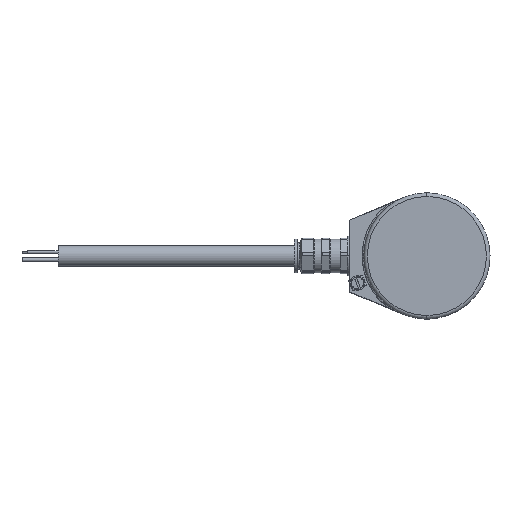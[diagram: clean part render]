
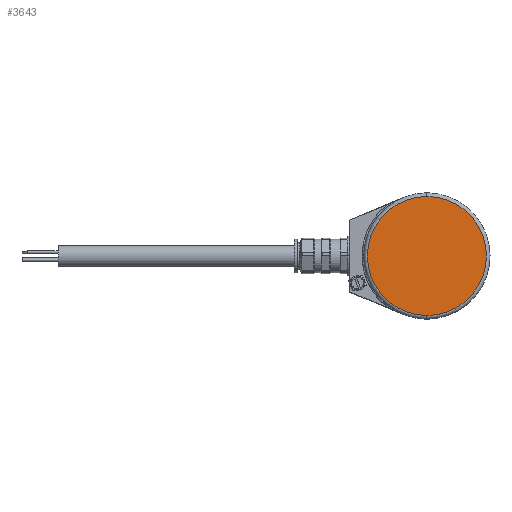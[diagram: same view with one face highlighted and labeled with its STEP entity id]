
A CAD part, left-side view. The second image highlights one B-rep face of the part: STEP entity #3643.
In plain terms, the highlighted planar face has unit normal (-1, 0, 0).
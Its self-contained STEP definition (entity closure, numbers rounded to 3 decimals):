
#79 = CARTESIAN_POINT ( 'NONE',  ( -70.2, 0., 33. ) ) ;
#80 = CARTESIAN_POINT ( 'NONE',  ( -70.2, 0., -33. ) ) ;
#3643 = ADVANCED_FACE ( 'NONE', ( #6477 ), #19804, .F. ) ;
#6477 = FACE_OUTER_BOUND ( 'NONE', #15309, .T. ) ;
#6515 = AXIS2_PLACEMENT_3D ( 'NONE', #19805, #19806, #19807 ) ;
#11480 = EDGE_CURVE ( 'NONE', #11834, #11833, #17797, .T. ) ;
#11503 = EDGE_CURVE ( 'NONE', #11833, #11834, #17815, .T. ) ;
#11833 = VERTEX_POINT ( 'NONE', #79 ) ;
#11834 = VERTEX_POINT ( 'NONE', #80 ) ;
#14937 = ORIENTED_EDGE ( 'NONE', *, *, #11480, .T. ) ;
#14938 = ORIENTED_EDGE ( 'NONE', *, *, #11503, .T. ) ;
#15309 = EDGE_LOOP ( 'NONE', ( #14937, #14938 ) ) ;
#17797 = CIRCLE ( 'NONE', #28696, 33. ) ;
#17815 = CIRCLE ( 'NONE', #28745, 33. ) ;
#19804 = PLANE ( 'NONE',  #6515 ) ;
#19805 = CARTESIAN_POINT ( 'NONE',  ( -70.2, 0., 0. ) ) ;
#19806 = DIRECTION ( 'NONE',  ( 1., 0., 0. ) ) ;
#19807 = DIRECTION ( 'NONE',  ( 0., 0., 1. ) ) ;
#28696 = AXIS2_PLACEMENT_3D ( 'NONE', #31952, #31953, #31954 ) ;
#28745 = AXIS2_PLACEMENT_3D ( 'NONE', #32064, #32065, #32066 ) ;
#31952 = CARTESIAN_POINT ( 'NONE',  ( -70.2, 0., 0. ) ) ;
#31953 = DIRECTION ( 'NONE',  ( -1., 0., 0. ) ) ;
#31954 = DIRECTION ( 'NONE',  ( 0., 0., -1. ) ) ;
#32064 = CARTESIAN_POINT ( 'NONE',  ( -70.2, 0., 0. ) ) ;
#32065 = DIRECTION ( 'NONE',  ( -1., 0., 0. ) ) ;
#32066 = DIRECTION ( 'NONE',  ( 0., 0., -1. ) ) ;
